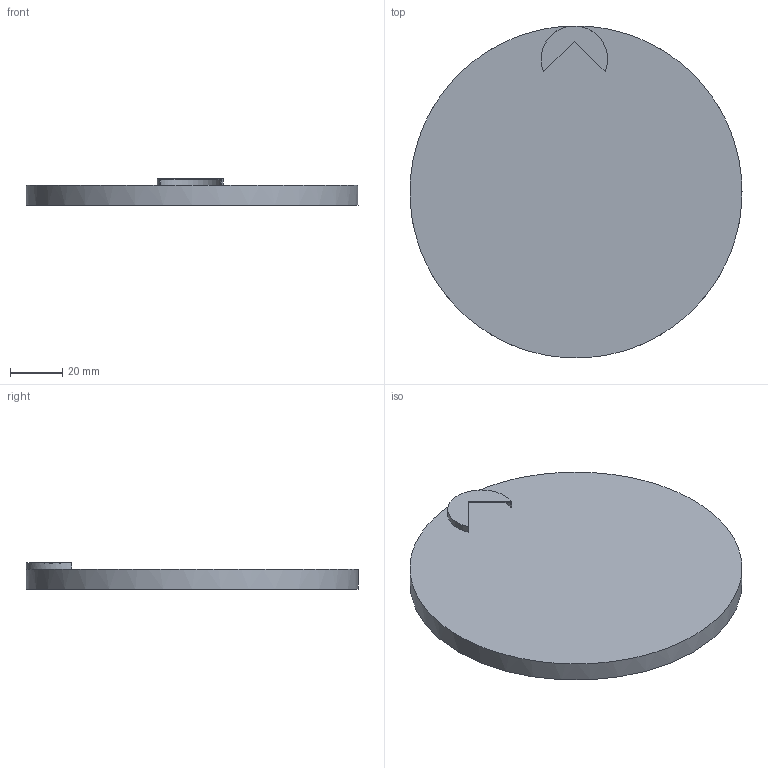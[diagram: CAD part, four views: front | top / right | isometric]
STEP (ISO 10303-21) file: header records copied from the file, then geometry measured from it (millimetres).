
FILE_DESCRIPTION(/* description */ (''),/* implementation_level */ '2;1');
FILE_NAME(/* name */ 'GreatSealPiggy.step',/* time_stamp */ '2025-12-09T13:30:33-06:00',/* author */ (''),/* organization */ (''),/* preprocessor_version */ 'ST-DEVELOPER v20.1',/* originating_system */ 'Autodesk Translation Framework v14.21.0.0',/* authorisation */ '');
FILE_SCHEMA (('AUTOMOTIVE_DESIGN { 1 0 10303 214 3 1 1 }'));
Length unit declared in the file: inch
Products named in the file (1): GreatSeal
Bounding box: 127 x 127 x 10.24 mm (x, y, z)
Volume: 79168 mm3; surface area: 38879.4 mm2
Topology: 1 solids, 1 shells, 537 faces, 1278 edges, 852 vertices
Faces by surface type: bspline 389, plane 144, cylinder 4
Full cylindrical faces by diameter (mm): 121.92 x1, 127 x1
Entity records: 30596 total; most frequent: CARTESIAN_POINT 20790, ORIENTED_EDGE 2556, EDGE_CURVE 1278, VERTEX_POINT 852, DIRECTION 797, B_SPLINE_CURVE_WITH_KNOTS 787, EDGE_LOOP 646, FACE_OUTER_BOUND 537
